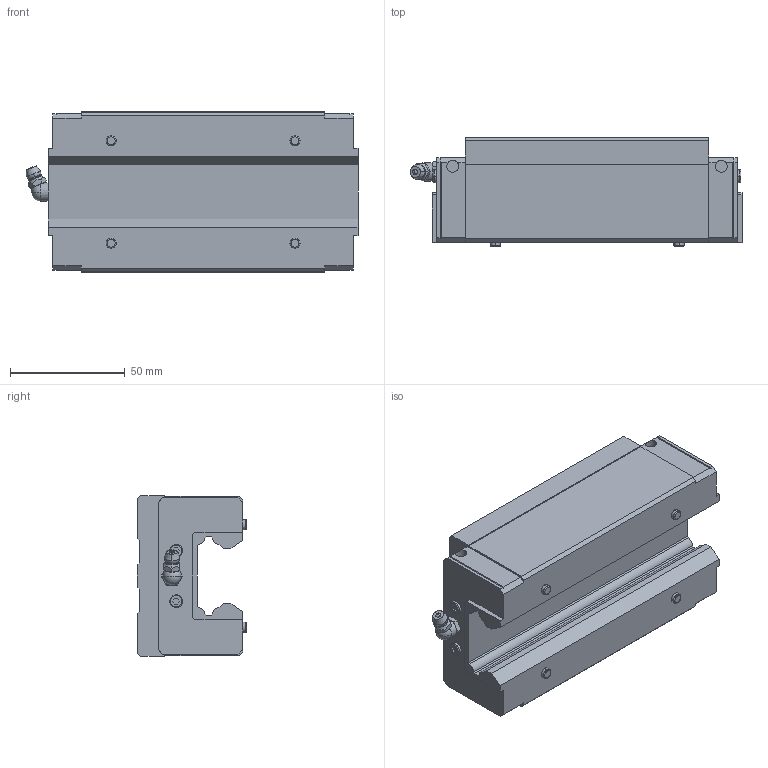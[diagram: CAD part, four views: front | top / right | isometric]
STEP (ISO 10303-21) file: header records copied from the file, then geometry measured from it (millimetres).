
FILE_DESCRIPTION (( 'STEP AP203' ), '1' );
FILE_NAME ('HSR35LR_SW2020.STEP', '2020-06-02T18:38:06', ( '' ), ( '' ), 'SwSTEP 2.0', 'SolidWorks 2020', '' );
FILE_SCHEMA (( 'CONFIG_CONTROL_DESIGN' ));
Length unit declared in the file: millimetre
Products named in the file (1): HSR35LR_SW2020
Bounding box: 144.4 x 47.5 x 70 mm (x, y, z)
Volume: 323312.1 mm3; surface area: 43837.6 mm2
Topology: 2 solids, 2 shells, 254 faces, 652 edges, 408 vertices
Faces by surface type: plane 146, cylinder 44, cone 36, torus 22, sphere 6
Entity records: 8022 total; most frequent: CARTESIAN_POINT 1771, DIRECTION 1298, ORIENTED_EDGE 1274, EDGE_CURVE 637, AXIS2_PLACEMENT_3D 436, LINE 426, VECTOR 426, VERTEX_POINT 408
